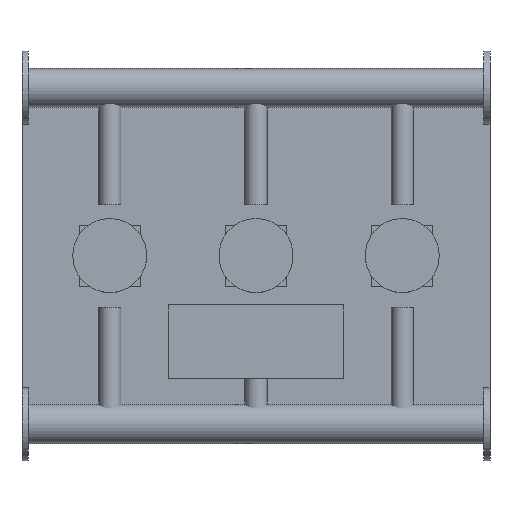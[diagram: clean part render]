
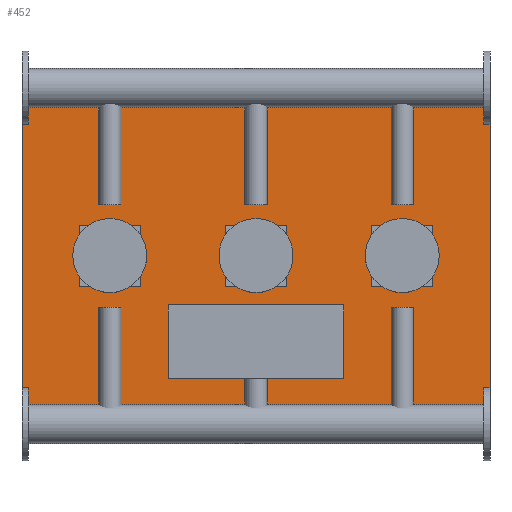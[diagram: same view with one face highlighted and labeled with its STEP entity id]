
A CAD part, top view. The second image highlights one B-rep face of the part: STEP entity #452.
In plain terms, the highlighted planar face has unit normal (0, 0, 1).
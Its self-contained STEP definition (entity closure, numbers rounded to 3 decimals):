
#138 = VERTEX_POINT('',#139);
#139 = CARTESIAN_POINT('',(0.,85.,120.));
#146 = PLANE('',#147);
#147 = AXIS2_PLACEMENT_3D('',#148,#149,#150);
#148 = CARTESIAN_POINT('',(0.,85.,0.));
#149 = DIRECTION('',(1.,0.,0.));
#150 = DIRECTION('',(0.,0.,1.));
#158 = PLANE('',#159);
#159 = AXIS2_PLACEMENT_3D('',#160,#161,#162);
#160 = CARTESIAN_POINT('',(0.,85.,0.));
#161 = DIRECTION('',(0.,1.,0.));
#162 = DIRECTION('',(0.,0.,1.));
#199 = VERTEX_POINT('',#200);
#200 = CARTESIAN_POINT('',(0.,1315.,120.));
#214 = PLANE('',#215);
#215 = AXIS2_PLACEMENT_3D('',#216,#217,#218);
#216 = CARTESIAN_POINT('',(0.,1315.,0.));
#217 = DIRECTION('',(0.,1.,0.));
#218 = DIRECTION('',(0.,0.,1.));
#226 = EDGE_CURVE('',#138,#199,#227,.T.);
#227 = SURFACE_CURVE('',#228,(#232,#239),.PCURVE_S1.);
#228 = LINE('',#229,#230);
#229 = CARTESIAN_POINT('',(0.,85.,120.));
#230 = VECTOR('',#231,1.);
#231 = DIRECTION('',(0.,1.,0.));
#232 = PCURVE('',#146,#233);
#233 = DEFINITIONAL_REPRESENTATION('',(#234),#238);
#234 = LINE('',#235,#236);
#235 = CARTESIAN_POINT('',(120.,0.));
#236 = VECTOR('',#237,1.);
#237 = DIRECTION('',(0.,-1.));
#238 = ( GEOMETRIC_REPRESENTATION_CONTEXT(2) 
PARAMETRIC_REPRESENTATION_CONTEXT() REPRESENTATION_CONTEXT('2D SPACE',''
  ) );
#239 = PCURVE('',#240,#245);
#240 = PLANE('',#241);
#241 = AXIS2_PLACEMENT_3D('',#242,#243,#244);
#242 = CARTESIAN_POINT('',(0.,85.,120.));
#243 = DIRECTION('',(0.,0.,1.));
#244 = DIRECTION('',(1.,0.,0.));
#245 = DEFINITIONAL_REPRESENTATION('',(#246),#250);
#246 = LINE('',#247,#248);
#247 = CARTESIAN_POINT('',(0.,0.));
#248 = VECTOR('',#249,1.);
#249 = DIRECTION('',(0.,1.));
#250 = ( GEOMETRIC_REPRESENTATION_CONTEXT(2) 
PARAMETRIC_REPRESENTATION_CONTEXT() REPRESENTATION_CONTEXT('2D SPACE',''
  ) );
#258 = VERTEX_POINT('',#259);
#259 = CARTESIAN_POINT('',(1600.,85.,120.));
#266 = PLANE('',#267);
#267 = AXIS2_PLACEMENT_3D('',#268,#269,#270);
#268 = CARTESIAN_POINT('',(1600.,85.,0.));
#269 = DIRECTION('',(1.,0.,0.));
#270 = DIRECTION('',(0.,0.,1.));
#309 = VERTEX_POINT('',#310);
#310 = CARTESIAN_POINT('',(1600.,1315.,120.));
#331 = EDGE_CURVE('',#258,#309,#332,.T.);
#332 = SURFACE_CURVE('',#333,(#337,#344),.PCURVE_S1.);
#333 = LINE('',#334,#335);
#334 = CARTESIAN_POINT('',(1600.,85.,120.));
#335 = VECTOR('',#336,1.);
#336 = DIRECTION('',(0.,1.,0.));
#337 = PCURVE('',#266,#338);
#338 = DEFINITIONAL_REPRESENTATION('',(#339),#343);
#339 = LINE('',#340,#341);
#340 = CARTESIAN_POINT('',(120.,0.));
#341 = VECTOR('',#342,1.);
#342 = DIRECTION('',(0.,-1.));
#343 = ( GEOMETRIC_REPRESENTATION_CONTEXT(2) 
PARAMETRIC_REPRESENTATION_CONTEXT() REPRESENTATION_CONTEXT('2D SPACE',''
  ) );
#344 = PCURVE('',#240,#345);
#345 = DEFINITIONAL_REPRESENTATION('',(#346),#350);
#346 = LINE('',#347,#348);
#347 = CARTESIAN_POINT('',(1600.,0.));
#348 = VECTOR('',#349,1.);
#349 = DIRECTION('',(0.,1.));
#350 = ( GEOMETRIC_REPRESENTATION_CONTEXT(2) 
PARAMETRIC_REPRESENTATION_CONTEXT() REPRESENTATION_CONTEXT('2D SPACE',''
  ) );
#377 = EDGE_CURVE('',#138,#258,#378,.T.);
#378 = SURFACE_CURVE('',#379,(#383,#390),.PCURVE_S1.);
#379 = LINE('',#380,#381);
#380 = CARTESIAN_POINT('',(0.,85.,120.));
#381 = VECTOR('',#382,1.);
#382 = DIRECTION('',(1.,0.,0.));
#383 = PCURVE('',#158,#384);
#384 = DEFINITIONAL_REPRESENTATION('',(#385),#389);
#385 = LINE('',#386,#387);
#386 = CARTESIAN_POINT('',(120.,0.));
#387 = VECTOR('',#388,1.);
#388 = DIRECTION('',(0.,1.));
#389 = ( GEOMETRIC_REPRESENTATION_CONTEXT(2) 
PARAMETRIC_REPRESENTATION_CONTEXT() REPRESENTATION_CONTEXT('2D SPACE',''
  ) );
#390 = PCURVE('',#240,#391);
#391 = DEFINITIONAL_REPRESENTATION('',(#392),#396);
#392 = LINE('',#393,#394);
#393 = CARTESIAN_POINT('',(0.,0.));
#394 = VECTOR('',#395,1.);
#395 = DIRECTION('',(1.,0.));
#396 = ( GEOMETRIC_REPRESENTATION_CONTEXT(2) 
PARAMETRIC_REPRESENTATION_CONTEXT() REPRESENTATION_CONTEXT('2D SPACE',''
  ) );
#424 = EDGE_CURVE('',#199,#309,#425,.T.);
#425 = SURFACE_CURVE('',#426,(#430,#437),.PCURVE_S1.);
#426 = LINE('',#427,#428);
#427 = CARTESIAN_POINT('',(0.,1315.,120.));
#428 = VECTOR('',#429,1.);
#429 = DIRECTION('',(1.,0.,0.));
#430 = PCURVE('',#214,#431);
#431 = DEFINITIONAL_REPRESENTATION('',(#432),#436);
#432 = LINE('',#433,#434);
#433 = CARTESIAN_POINT('',(120.,0.));
#434 = VECTOR('',#435,1.);
#435 = DIRECTION('',(0.,1.));
#436 = ( GEOMETRIC_REPRESENTATION_CONTEXT(2) 
PARAMETRIC_REPRESENTATION_CONTEXT() REPRESENTATION_CONTEXT('2D SPACE',''
  ) );
#437 = PCURVE('',#240,#438);
#438 = DEFINITIONAL_REPRESENTATION('',(#439),#443);
#439 = LINE('',#440,#441);
#440 = CARTESIAN_POINT('',(0.,1230.));
#441 = VECTOR('',#442,1.);
#442 = DIRECTION('',(1.,0.));
#443 = ( GEOMETRIC_REPRESENTATION_CONTEXT(2) 
PARAMETRIC_REPRESENTATION_CONTEXT() REPRESENTATION_CONTEXT('2D SPACE',''
  ) );
#452 = ADVANCED_FACE('',(#453),#240,.T.);
#453 = FACE_BOUND('',#454,.T.);
#454 = EDGE_LOOP('',(#455,#456,#457,#458));
#455 = ORIENTED_EDGE('',*,*,#226,.F.);
#456 = ORIENTED_EDGE('',*,*,#377,.T.);
#457 = ORIENTED_EDGE('',*,*,#331,.T.);
#458 = ORIENTED_EDGE('',*,*,#424,.F.);
